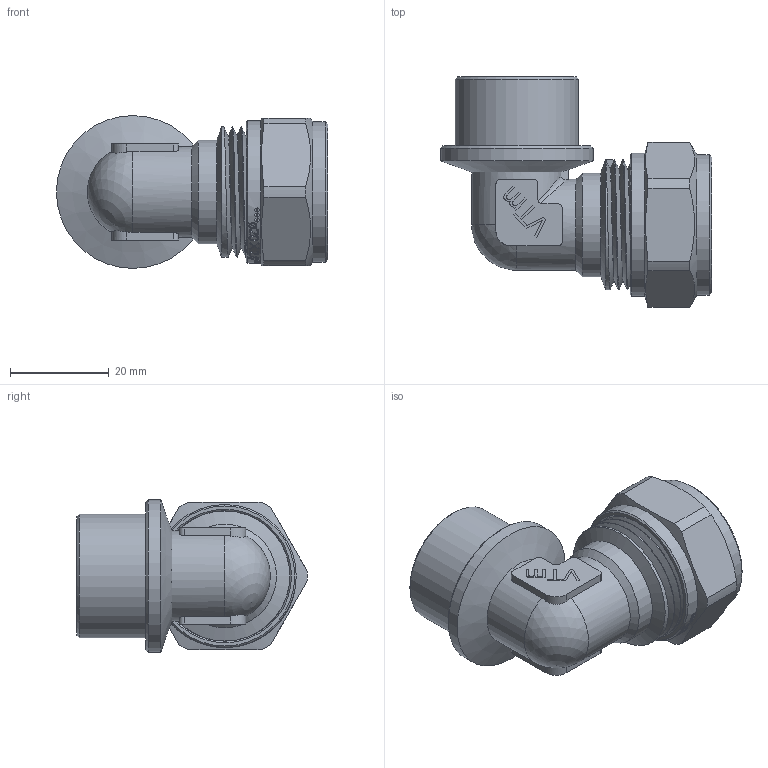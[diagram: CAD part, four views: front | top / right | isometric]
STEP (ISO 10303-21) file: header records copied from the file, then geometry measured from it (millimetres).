
FILE_DESCRIPTION(/* description */ (''),/* implementation_level */ '2;1');
FILE_NAME(/* name */ 'F:\Артём\00000\Работа удаленка\Обжимные фитинги\VTm.352.N.002004.stp',/* time_stamp */ '2020-08-06T13:20:09+03:00',/* author */ ('almis'),/* organization */ (''),/* preprocessor_version */ 'ST-DEVELOPER v18',/* originating_system */ 'Autodesk Inventor 2020',/* authorisation */ '');
FILE_SCHEMA (('AUTOMOTIVE_DESIGN { 1 0 10303 214 3 1 1 }'));
Length unit declared in the file: millimetre
Products named in the file (1): VTm.341.N.202020
Bounding box: 54.98 x 46.71 x 31 mm (x, y, z)
Volume: 18136.9 mm3; surface area: 15583.8 mm2
Topology: 1 solids, 2 shells, 762 faces, 2139 edges, 1439 vertices
Faces by surface type: bspline 372, plane 240, cylinder 106, torus 23, cone 19, sphere 2
Full cylindrical faces by diameter (mm): 11.5 x1, 13.4 x2, 15 x1, 15.75 x4, 18.444 x1, 18.6 x6, 19.986 x4, 20.2 x1, 20.728 x5, 21 x2, 22.2 x7, 22.8 x3, 23.201 x1, 24.2 x1, 25 x1, 26.4 x3, 28.5 x1, 29 x1, 31 x1
Entity records: 32969 total; most frequent: CARTESIAN_POINT 15627, ORIENTED_EDGE 4274, DIRECTION 2443, EDGE_CURVE 2137, VERTEX_POINT 1439, LINE 967, VECTOR 967, EDGE_LOOP 826
